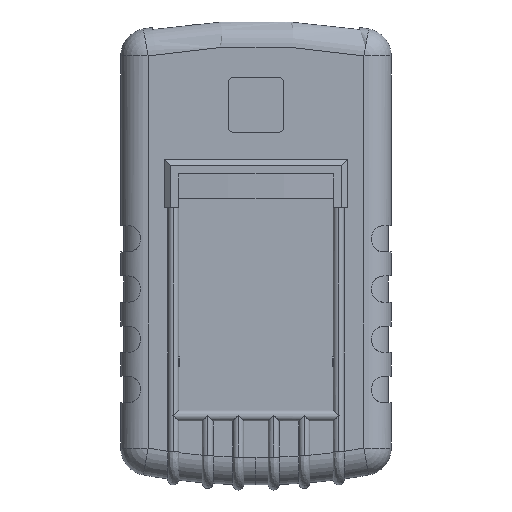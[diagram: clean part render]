
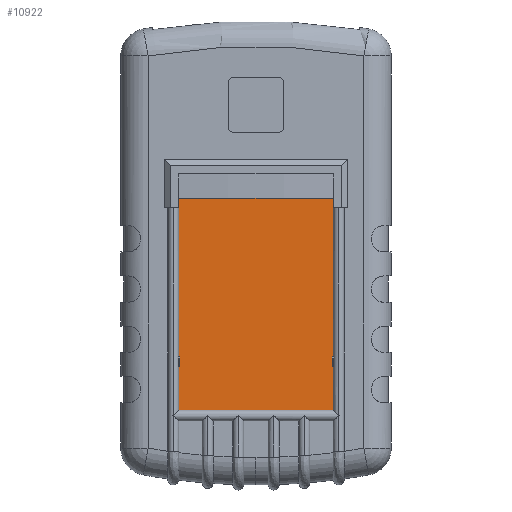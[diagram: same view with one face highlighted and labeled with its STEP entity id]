
A CAD part, front view. The second image highlights one B-rep face of the part: STEP entity #10922.
In plain terms, the highlighted planar face has unit normal (0, -1, 0).
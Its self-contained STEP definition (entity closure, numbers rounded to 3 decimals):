
#321 = CARTESIAN_POINT ( 'NONE',  ( 25.4, 0., -37.665 ) ) ;
#364 = VERTEX_POINT ( 'NONE', #8241 ) ;
#408 = LINE ( 'NONE', #22518, #5603 ) ;
#435 = EDGE_CURVE ( 'NONE', #15664, #8737, #21359, .T. ) ;
#638 = ORIENTED_EDGE ( 'NONE', *, *, #20247, .F. ) ;
#775 = LINE ( 'NONE', #5176, #12547 ) ;
#1038 = VERTEX_POINT ( 'NONE', #27140 ) ;
#1178 = EDGE_CURVE ( 'NONE', #16615, #10827, #27487, .T. ) ;
#1388 = LINE ( 'NONE', #28189, #12475 ) ;
#1444 = LINE ( 'NONE', #28244, #6650 ) ;
#1474 = FACE_OUTER_BOUND ( 'NONE', #3985, .T. ) ;
#1618 = CARTESIAN_POINT ( 'NONE',  ( -25.121, 0., -37.665 ) ) ;
#1629 = VECTOR ( 'NONE', #23728, 1000. ) ;
#1738 = VERTEX_POINT ( 'NONE', #1618 ) ;
#2283 = VECTOR ( 'NONE', #7908, 1000. ) ;
#3366 = VECTOR ( 'NONE', #24760, 1000. ) ;
#3816 = CARTESIAN_POINT ( 'NONE',  ( 27.305, 0., -51.953 ) ) ;
#3985 = EDGE_LOOP ( 'NONE', ( #23169, #20078, #20746, #22144, #13156, #8652, #15936, #27569, #23125, #6867, #15543, #11042, #638, #14492 ) ) ;
#4052 = LINE ( 'NONE', #15899, #3366 ) ;
#5176 = CARTESIAN_POINT ( 'NONE',  ( -25.4, 0., 17.72 ) ) ;
#5204 = LINE ( 'NONE', #7323, #15588 ) ;
#5241 = EDGE_CURVE ( 'NONE', #5890, #16615, #775, .T. ) ;
#5603 = VECTOR ( 'NONE', #24711, 1000. ) ;
#5665 = CARTESIAN_POINT ( 'NONE',  ( 25.4, 0., -34.49 ) ) ;
#5790 = EDGE_CURVE ( 'NONE', #6587, #1038, #1444, .T. ) ;
#5890 = VERTEX_POINT ( 'NONE', #10995 ) ;
#6340 = EDGE_CURVE ( 'NONE', #364, #19401, #6626, .T. ) ;
#6406 = PLANE ( 'NONE',  #21099 ) ;
#6587 = VERTEX_POINT ( 'NONE', #10073 ) ;
#6626 = LINE ( 'NONE', #26493, #24928 ) ;
#6650 = VECTOR ( 'NONE', #8463, 1000. ) ;
#6867 = ORIENTED_EDGE ( 'NONE', *, *, #6340, .F. ) ;
#6901 = EDGE_CURVE ( 'NONE', #17317, #7273, #1388, .T. ) ;
#7273 = VERTEX_POINT ( 'NONE', #24145 ) ;
#7323 = CARTESIAN_POINT ( 'NONE',  ( 25.4, 0., -65.704 ) ) ;
#7830 = DIRECTION ( 'NONE',  ( 0., 0., -1. ) ) ;
#7908 = DIRECTION ( 'NONE',  ( -1., 0., 0. ) ) ;
#8201 = EDGE_CURVE ( 'NONE', #9143, #17317, #9982, .T. ) ;
#8241 = CARTESIAN_POINT ( 'NONE',  ( -25.4, 0., -51.953 ) ) ;
#8320 = LINE ( 'NONE', #22789, #19396 ) ;
#8463 = DIRECTION ( 'NONE',  ( 1., 0., 0. ) ) ;
#8635 = DIRECTION ( 'NONE',  ( 0., 0., -1. ) ) ;
#8652 = ORIENTED_EDGE ( 'NONE', *, *, #8755, .F. ) ;
#8737 = VERTEX_POINT ( 'NONE', #321 ) ;
#8755 = EDGE_CURVE ( 'NONE', #6587, #27981, #4052, .T. ) ;
#9143 = VERTEX_POINT ( 'NONE', #5665 ) ;
#9559 = DIRECTION ( 'NONE',  ( 0., 0., 1. ) ) ;
#9982 = LINE ( 'NONE', #11493, #15175 ) ;
#10073 = CARTESIAN_POINT ( 'NONE',  ( -25.4, 0., -34.49 ) ) ;
#10453 = DIRECTION ( 'NONE',  ( 0., 0., 1. ) ) ;
#10667 = LINE ( 'NONE', #18406, #15867 ) ;
#10827 = VERTEX_POINT ( 'NONE', #14921 ) ;
#10922 = ADVANCED_FACE ( 'NONE', ( #1474 ), #6406, .T. ) ;
#10995 = CARTESIAN_POINT ( 'NONE',  ( -25.4, 0., 17.72 ) ) ;
#11042 = ORIENTED_EDGE ( 'NONE', *, *, #435, .T. ) ;
#11493 = CARTESIAN_POINT ( 'NONE',  ( 0., 0., -34.49 ) ) ;
#11830 = DIRECTION ( 'NONE',  ( 0., 0., 1. ) ) ;
#12015 = CARTESIAN_POINT ( 'NONE',  ( -25.4, 0., -37.665 ) ) ;
#12475 = VECTOR ( 'NONE', #21568, 1000. ) ;
#12547 = VECTOR ( 'NONE', #20641, 1000. ) ;
#12996 = CARTESIAN_POINT ( 'NONE',  ( 0., 0., 0. ) ) ;
#13156 = ORIENTED_EDGE ( 'NONE', *, *, #23580, .F. ) ;
#14098 = LINE ( 'NONE', #3816, #1629 ) ;
#14492 = ORIENTED_EDGE ( 'NONE', *, *, #6901, .F. ) ;
#14921 = CARTESIAN_POINT ( 'NONE',  ( 25.4, 0., 14.545 ) ) ;
#15175 = VECTOR ( 'NONE', #20284, 1000. ) ;
#15403 = CARTESIAN_POINT ( 'NONE',  ( 25.4, 0., -65.704 ) ) ;
#15543 = ORIENTED_EDGE ( 'NONE', *, *, #23196, .F. ) ;
#15588 = VECTOR ( 'NONE', #9559, 1000. ) ;
#15664 = VERTEX_POINT ( 'NONE', #23649 ) ;
#15867 = VECTOR ( 'NONE', #11830, 1000. ) ;
#15899 = CARTESIAN_POINT ( 'NONE',  ( -25.4, 0., -65.704 ) ) ;
#15936 = ORIENTED_EDGE ( 'NONE', *, *, #5790, .T. ) ;
#16112 = DIRECTION ( 'NONE',  ( 0., 0., -1. ) ) ;
#16615 = VERTEX_POINT ( 'NONE', #25005 ) ;
#16725 = EDGE_CURVE ( 'NONE', #1738, #19401, #19931, .T. ) ;
#16785 = CARTESIAN_POINT ( 'NONE',  ( 25.121, 0., -34.49 ) ) ;
#17317 = VERTEX_POINT ( 'NONE', #16785 ) ;
#18406 = CARTESIAN_POINT ( 'NONE',  ( -25.4, 0., 25.644 ) ) ;
#19396 = VECTOR ( 'NONE', #16112, 1000. ) ;
#19401 = VERTEX_POINT ( 'NONE', #12015 ) ;
#19931 = LINE ( 'NONE', #20964, #2283 ) ;
#20078 = ORIENTED_EDGE ( 'NONE', *, *, #25618, .T. ) ;
#20247 = EDGE_CURVE ( 'NONE', #7273, #8737, #408, .T. ) ;
#20284 = DIRECTION ( 'NONE',  ( -1., 0., 0. ) ) ;
#20641 = DIRECTION ( 'NONE',  ( 1., 0., 0. ) ) ;
#20746 = ORIENTED_EDGE ( 'NONE', *, *, #1178, .F. ) ;
#20964 = CARTESIAN_POINT ( 'NONE',  ( 0., 0., -37.665 ) ) ;
#21099 = AXIS2_PLACEMENT_3D ( 'NONE', #12996, #21880, #8635 ) ;
#21152 = EDGE_CURVE ( 'NONE', #1038, #1738, #8320, .T. ) ;
#21359 = LINE ( 'NONE', #15403, #25812 ) ;
#21568 = DIRECTION ( 'NONE',  ( 0., 0., -1. ) ) ;
#21651 = VECTOR ( 'NONE', #7830, 1000. ) ;
#21880 = DIRECTION ( 'NONE',  ( 0., -1., 0. ) ) ;
#22144 = ORIENTED_EDGE ( 'NONE', *, *, #5241, .F. ) ;
#22518 = CARTESIAN_POINT ( 'NONE',  ( 0., 0., -37.665 ) ) ;
#22789 = CARTESIAN_POINT ( 'NONE',  ( -25.121, 0., 0. ) ) ;
#23125 = ORIENTED_EDGE ( 'NONE', *, *, #16725, .T. ) ;
#23169 = ORIENTED_EDGE ( 'NONE', *, *, #8201, .F. ) ;
#23196 = EDGE_CURVE ( 'NONE', #15664, #364, #14098, .T. ) ;
#23580 = EDGE_CURVE ( 'NONE', #27981, #5890, #10667, .T. ) ;
#23649 = CARTESIAN_POINT ( 'NONE',  ( 25.4, 0., -51.953 ) ) ;
#23728 = DIRECTION ( 'NONE',  ( -1., 0., 0. ) ) ;
#24145 = CARTESIAN_POINT ( 'NONE',  ( 25.121, 0., -37.665 ) ) ;
#24711 = DIRECTION ( 'NONE',  ( 1., 0., 0. ) ) ;
#24760 = DIRECTION ( 'NONE',  ( 0., 0., 1. ) ) ;
#24928 = VECTOR ( 'NONE', #28600, 1000. ) ;
#25005 = CARTESIAN_POINT ( 'NONE',  ( 25.4, 0., 17.72 ) ) ;
#25416 = CARTESIAN_POINT ( 'NONE',  ( 25.4, 0., 14.545 ) ) ;
#25618 = EDGE_CURVE ( 'NONE', #9143, #10827, #5204, .T. ) ;
#25812 = VECTOR ( 'NONE', #10453, 1000. ) ;
#26493 = CARTESIAN_POINT ( 'NONE',  ( -25.4, 0., -65.704 ) ) ;
#27140 = CARTESIAN_POINT ( 'NONE',  ( -25.121, 0., -34.49 ) ) ;
#27449 = CARTESIAN_POINT ( 'NONE',  ( -25.4, 0., 14.545 ) ) ;
#27487 = LINE ( 'NONE', #25416, #21651 ) ;
#27569 = ORIENTED_EDGE ( 'NONE', *, *, #21152, .T. ) ;
#27981 = VERTEX_POINT ( 'NONE', #27449 ) ;
#28189 = CARTESIAN_POINT ( 'NONE',  ( 25.121, 0., 0. ) ) ;
#28244 = CARTESIAN_POINT ( 'NONE',  ( 0., 0., -34.49 ) ) ;
#28600 = DIRECTION ( 'NONE',  ( 0., 0., 1. ) ) ;
